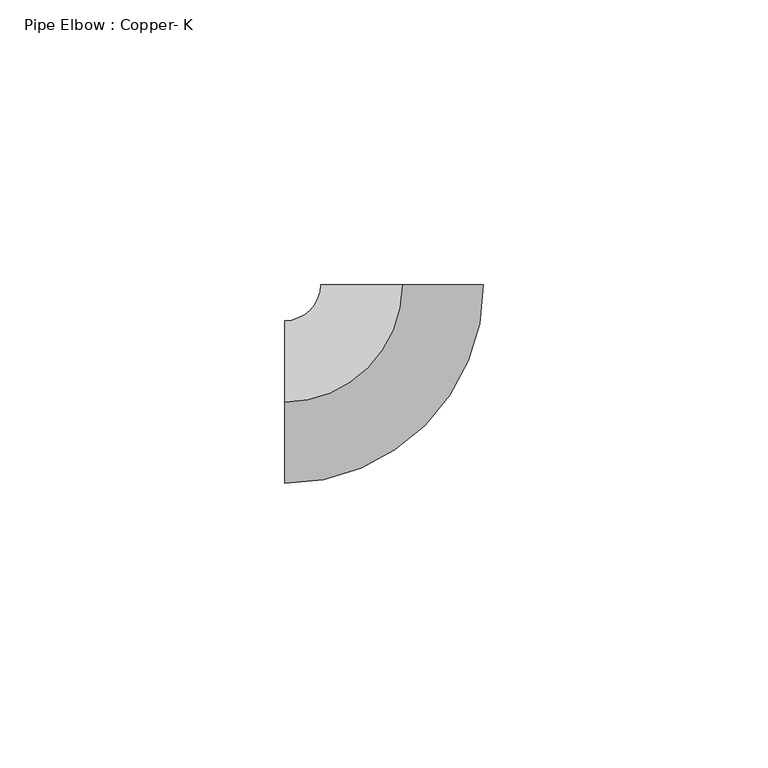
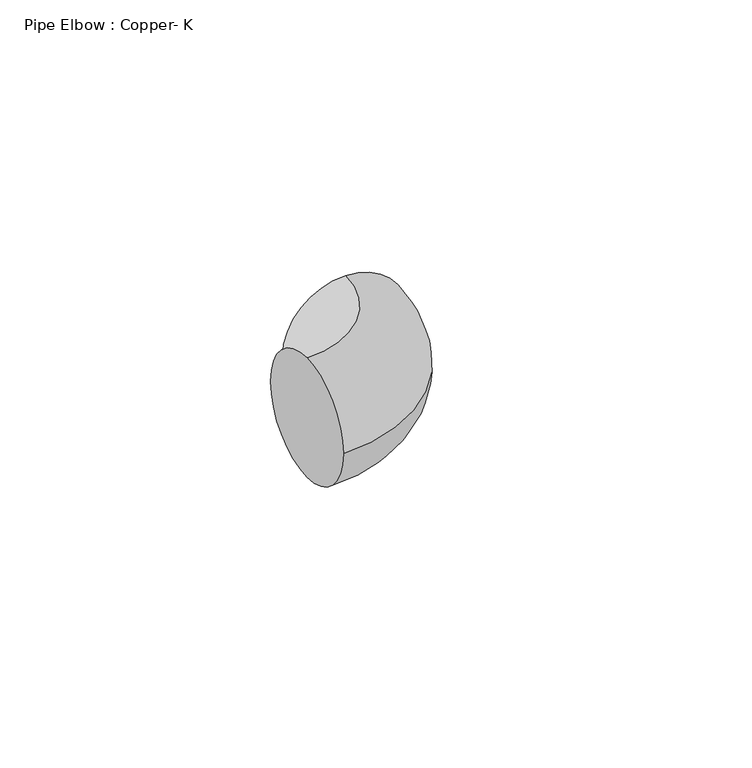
"""IFC4 building model written with IfcOpenShell, lengths in millimetres: pipe fitting geometry, Pipe Elbow : Copper- K."""

from ifc_helpers import new_model, si_unit, point, frame, origin, place, context, project, spatial, circle_curve, ellipse_curve, trimmed, source, transform, mapped, element, save
from ifc_brep_helpers import plane_surface, revolved_surface, advanced_brep


def pipe_elbow_copper_k_e016d333(model_context):
    return source(origin(), model_context, "Body", "AdvancedBrep", [
        advanced_brep(
        [(-20.6161329, 0.0, 14.2875), (-20.6161329, 14.2875, 0.0), (-20.6161329, 0.0, -14.2875), (-20.6161329, -14.2875, 0.0), (0.021356, 20.6161219, 14.2875), (14.3088483, 20.6013216, 0.0), (0.021356, 20.6161219, -14.2875), (-14.2661363, 20.6309221, 0.0)],
        [
            (0, 1, circle_curve(frame((-20.6161329, 0.0, 0.0), z_axis=(-1.0, 0.0, 0.0), x_axis=(0.0, 1.0, 0.0)), 14.2875)),
            (1, 2, circle_curve(frame((-20.6161329, 0.0, 0.0), z_axis=(-1.0, 0.0, 0.0), x_axis=(0.0, 1.0, 0.0)), 14.2875)),
            (2, 3, circle_curve(frame((-20.6161329, 0.0, 0.0), z_axis=(-1.0, 0.0, 0.0), x_axis=(0.0, 1.0, 0.0)), 14.2875)),
            (3, 0, circle_curve(frame((-20.6161329, 0.0, 0.0), z_axis=(-1.0, 0.0, 0.0), x_axis=(0.0, 1.0, 0.0)), 14.2875)),
            (4, 5, circle_curve(frame((0.021356, 20.6161219, 0.0), z_axis=(0.0010358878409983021, 0.9999994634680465, 0.0), x_axis=(-0.9999994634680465, 0.0010358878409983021, 0.0)), 14.2875)),
            (5, 6, circle_curve(frame((0.021356, 20.6161219, 0.0), z_axis=(0.0010358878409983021, 0.9999994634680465, 0.0), x_axis=(-0.9999994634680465, 0.0010358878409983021, 0.0)), 14.2875)),
            (6, 7, circle_curve(frame((0.021356, 20.6161219, 0.0), z_axis=(0.0010358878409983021, 0.9999994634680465, 0.0), x_axis=(-0.9999994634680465, 0.0010358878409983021, 0.0)), 14.2875)),
            (7, 4, circle_curve(frame((0.021356, 20.6161219, 0.0), z_axis=(0.0010358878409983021, 0.9999994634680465, 0.0), x_axis=(-0.9999994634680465, 0.0010358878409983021, 0.0)), 14.2875)),
            (7, 1, circle_curve(frame((-20.6161329, 20.6375, 0.0), z_axis=(0.0, 0.0, -1.0), x_axis=(0.0, -1.0, 0.0)), 6.35)),
            (0, 4, circle_curve(frame((-20.6161329, 20.6375, 14.2875), z_axis=(0.0, 0.0, 1.0), x_axis=(0.0, -1.0, 0.0)), 20.6375)),
            (6, 2, circle_curve(frame((-20.6161329, 20.6375, -14.2875), z_axis=(0.0, 0.0, -1.0), x_axis=(0.0, -1.0, 0.0)), 20.6375)),
            (5, 3, circle_curve(frame((-20.6161329, 20.6375, 0.0), z_axis=(0.0, 0.0, -1.0), x_axis=(0.0, -1.0, 0.0)), 34.925)),
        ],
        [
            plane_surface(frame((-20.6161329, 0.0, 0.0), z_axis=(-1.0, 0.0, 0.0), x_axis=(0.0, 0.0, 1.0))),
            plane_surface(frame((0.021356, 20.6161219, 0.0), z_axis=(0.0010358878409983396, 0.9999994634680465, 0.0), x_axis=(0.0, 0.0, 1.0))),
            revolved_surface(trimmed(ellipse_curve(frame((-20.6161329, 0.0, 0.0), z_axis=(-1.0, 0.0, 0.0), x_axis=(0.0, 1.0, 0.0)), 14.2875, 14.2875), [point((-20.6161329, 0.0, 14.2875))], [point((-20.6161329, 14.2875, 0.0))], True, "CARTESIAN"), (-20.6161329, 20.6375, 0.0), (0.0, 0.0, 1.0)),
            revolved_surface(trimmed(ellipse_curve(frame((-20.6161329, 0.0, 0.0), z_axis=(-1.0, 0.0, 0.0), x_axis=(0.0, 1.0, 0.0)), 14.2875, 14.2875), [point((-20.6161329, 14.2875, 0.0))], [point((-20.6161329, 0.0, -14.2875))], True, "CARTESIAN"), (-20.6161329, 20.6375, 0.0), (0.0, 0.0, 1.0)),
            revolved_surface(trimmed(ellipse_curve(frame((-20.6161329, 0.0, 0.0), z_axis=(-1.0, 0.0, 0.0), x_axis=(0.0, 1.0, 0.0)), 14.2875, 14.2875), [point((-20.6161329, 0.0, -14.2875))], [point((-20.6161329, -14.2875, 0.0))], True, "CARTESIAN"), (-20.6161329, 20.6375, 0.0), (0.0, 0.0, 1.0)),
            revolved_surface(trimmed(ellipse_curve(frame((-20.6161329, 0.0, 0.0), z_axis=(-1.0, 0.0, 0.0), x_axis=(0.0, 1.0, 0.0)), 14.2875, 14.2875), [point((-20.6161329, -14.2875, 0.0))], [point((-20.6161329, 0.0, 14.2875))], True, "CARTESIAN"), (-20.6161329, 20.6375, 0.0), (0.0, 0.0, 1.0)),
        ],
        [
            (0, [[1, 2, 3, 4]]),
            (1, [[5, 6, 7, 8]]),
            (2, [[9, -1, 10, -8]]),
            (3, [[11, -2, -9, -7]]),
            (4, [[12, -3, -11, -6]]),
            (5, [[-10, -4, -12, -5]]),
        ],
    ),
        advanced_brep(
        [(-20.6161329, 0.0, 14.2875), (-20.6161329, 14.2875, 0.0), (-20.6161329, 0.0, -14.2875), (-20.6161329, -14.2875, 0.0), (0.021356, 20.6161219, 14.2875), (14.3088483, 20.6013216, 0.0), (0.021356, 20.6161219, -14.2875), (-14.2661363, 20.6309221, 0.0)],
        [
            (0, 1, circle_curve(frame((-20.6161329, 0.0, 0.0), z_axis=(-1.0, 0.0, 0.0), x_axis=(0.0, 1.0, 0.0)), 14.2875)),
            (1, 2, circle_curve(frame((-20.6161329, 0.0, 0.0), z_axis=(-1.0, 0.0, 0.0), x_axis=(0.0, 1.0, 0.0)), 14.2875)),
            (2, 3, circle_curve(frame((-20.6161329, 0.0, 0.0), z_axis=(-1.0, 0.0, 0.0), x_axis=(0.0, 1.0, 0.0)), 14.2875)),
            (3, 0, circle_curve(frame((-20.6161329, 0.0, 0.0), z_axis=(-1.0, 0.0, 0.0), x_axis=(0.0, 1.0, 0.0)), 14.2875)),
            (4, 5, circle_curve(frame((0.021356, 20.6161219, 0.0), z_axis=(0.0010358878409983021, 0.9999994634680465, 0.0), x_axis=(-0.9999994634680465, 0.0010358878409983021, 0.0)), 14.2875)),
            (5, 6, circle_curve(frame((0.021356, 20.6161219, 0.0), z_axis=(0.0010358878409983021, 0.9999994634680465, 0.0), x_axis=(-0.9999994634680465, 0.0010358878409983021, 0.0)), 14.2875)),
            (6, 7, circle_curve(frame((0.021356, 20.6161219, 0.0), z_axis=(0.0010358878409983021, 0.9999994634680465, 0.0), x_axis=(-0.9999994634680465, 0.0010358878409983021, 0.0)), 14.2875)),
            (7, 4, circle_curve(frame((0.021356, 20.6161219, 0.0), z_axis=(0.0010358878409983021, 0.9999994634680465, 0.0), x_axis=(-0.9999994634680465, 0.0010358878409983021, 0.0)), 14.2875)),
            (7, 1, circle_curve(frame((-20.6161329, 20.6375, 0.0), z_axis=(0.0, 0.0, -1.0), x_axis=(0.0, -1.0, 0.0)), 6.35)),
            (0, 4, circle_curve(frame((-20.6161329, 20.6375, 14.2875), z_axis=(0.0, 0.0, 1.0), x_axis=(0.0, -1.0, 0.0)), 20.6375)),
            (6, 2, circle_curve(frame((-20.6161329, 20.6375, -14.2875), z_axis=(0.0, 0.0, -1.0), x_axis=(0.0, -1.0, 0.0)), 20.6375)),
            (5, 3, circle_curve(frame((-20.6161329, 20.6375, 0.0), z_axis=(0.0, 0.0, -1.0), x_axis=(0.0, -1.0, 0.0)), 34.925)),
        ],
        [
            plane_surface(frame((-20.6161329, 0.0, 0.0), z_axis=(-1.0, 0.0, 0.0), x_axis=(0.0, 0.0, 1.0))),
            plane_surface(frame((0.021356, 20.6161219, 0.0), z_axis=(0.0010358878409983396, 0.9999994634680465, 0.0), x_axis=(0.0, 0.0, 1.0))),
            revolved_surface(trimmed(ellipse_curve(frame((-20.6161329, 0.0, 0.0), z_axis=(-1.0, 0.0, 0.0), x_axis=(0.0, 1.0, 0.0)), 14.2875, 14.2875), [point((-20.6161329, 0.0, 14.2875))], [point((-20.6161329, 14.2875, 0.0))], True, "CARTESIAN"), (-20.6161329, 20.6375, 0.0), (0.0, 0.0, 1.0)),
            revolved_surface(trimmed(ellipse_curve(frame((-20.6161329, 0.0, 0.0), z_axis=(-1.0, 0.0, 0.0), x_axis=(0.0, 1.0, 0.0)), 14.2875, 14.2875), [point((-20.6161329, 14.2875, 0.0))], [point((-20.6161329, 0.0, -14.2875))], True, "CARTESIAN"), (-20.6161329, 20.6375, 0.0), (0.0, 0.0, 1.0)),
            revolved_surface(trimmed(ellipse_curve(frame((-20.6161329, 0.0, 0.0), z_axis=(-1.0, 0.0, 0.0), x_axis=(0.0, 1.0, 0.0)), 14.2875, 14.2875), [point((-20.6161329, 0.0, -14.2875))], [point((-20.6161329, -14.2875, 0.0))], True, "CARTESIAN"), (-20.6161329, 20.6375, 0.0), (0.0, 0.0, 1.0)),
            revolved_surface(trimmed(ellipse_curve(frame((-20.6161329, 0.0, 0.0), z_axis=(-1.0, 0.0, 0.0), x_axis=(0.0, 1.0, 0.0)), 14.2875, 14.2875), [point((-20.6161329, -14.2875, 0.0))], [point((-20.6161329, 0.0, 14.2875))], True, "CARTESIAN"), (-20.6161329, 20.6375, 0.0), (0.0, 0.0, 1.0)),
        ],
        [
            (0, [[1, 2, 3, 4]]),
            (1, [[5, 6, 7, 8]]),
            (2, [[9, -1, 10, -8]]),
            (3, [[11, -2, -9, -7]]),
            (4, [[12, -3, -11, -6]]),
            (5, [[-10, -4, -12, -5]]),
        ],
    ),
    ])


if __name__ == "__main__":
    model = new_model("IFC4")
    model_context = context("Model", 3, world=origin())
    ifc_project = project(units=[si_unit("LENGTHUNIT", "METRE", prefix="MILLI")], contexts=[model_context])
    site = spatial("IfcSite", under=ifc_project)
    building = spatial("IfcBuilding", under=site)
    placement = place(None, origin())
    pipe_elbow_copper_k_shape = pipe_elbow_copper_k_e016d333(model_context)
    element("IfcPipeFitting", 1, ObjectType="Pipe Elbow : Copper- K", at=placement, inside=building, context=model_context, shape_type="MappedRepresentation", body=[
        mapped(pipe_elbow_copper_k_shape, transform((0.0, 0.0, 0.0), x_axis=(1.0, 0.0, 0.0), y_axis=(0.0, 1.0, 0.0), z_axis=(0.0, 0.0, 1.0))),
    ])
    save(model, "model.ifc")
